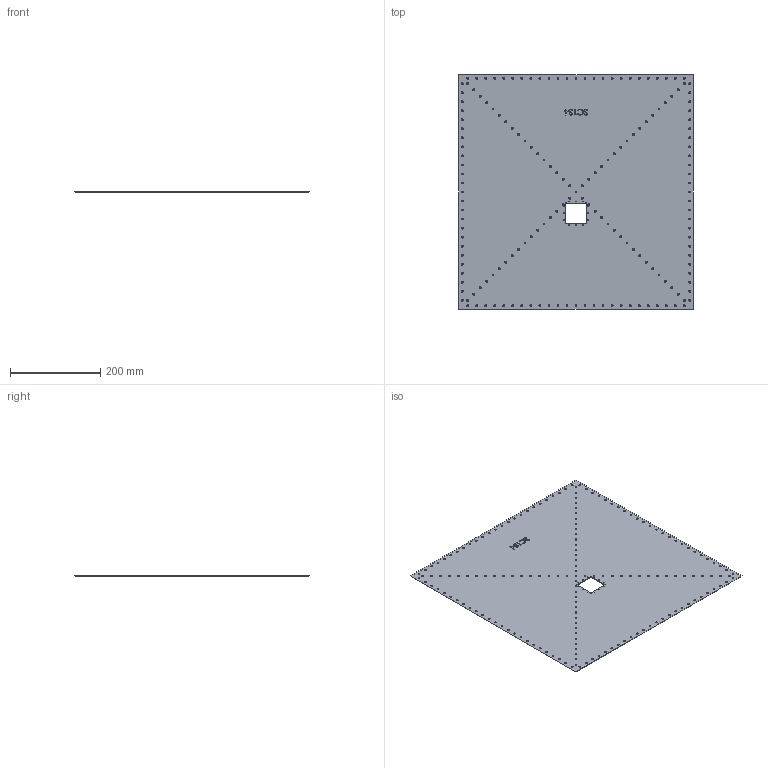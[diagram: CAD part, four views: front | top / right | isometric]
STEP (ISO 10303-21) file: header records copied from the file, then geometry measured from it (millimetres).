
FILE_DESCRIPTION (( 'STEP AP214' ), '1' );
FILE_NAME ('SC134sud.STEP', '2016-02-26T10:49:31', ( '' ), ( '' ), 'SwSTEP 2.0', 'SolidWorks 2012', '' );
FILE_SCHEMA (( 'AUTOMOTIVE_DESIGN' ));
Length unit declared in the file: millimetre
Products named in the file (1): SC134sud
Bounding box: 520 x 520 x 2 mm (x, y, z)
Volume: 530839.8 mm3; surface area: 539716.9 mm2
Topology: 1 solids, 1 shells, 786 faces, 1996 edges, 1218 vertices
Faces by surface type: cylinder 368, cone 338, plane 42, bspline 38
Entity records: 26420 total; most frequent: CARTESIAN_POINT 6135, DIRECTION 4492, ORIENTED_EDGE 3992, EDGE_CURVE 1996, AXIS2_PLACEMENT_3D 1823, VERTEX_POINT 1218, EDGE_LOOP 1156, CIRCLE 1074
